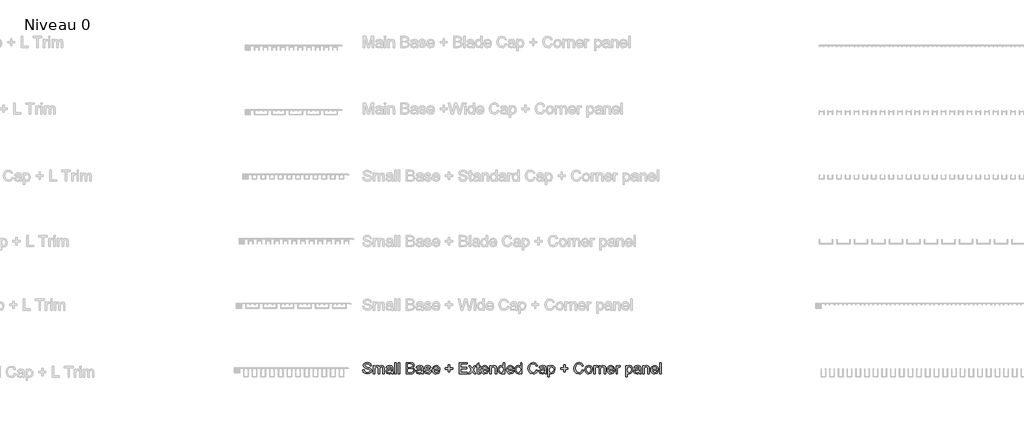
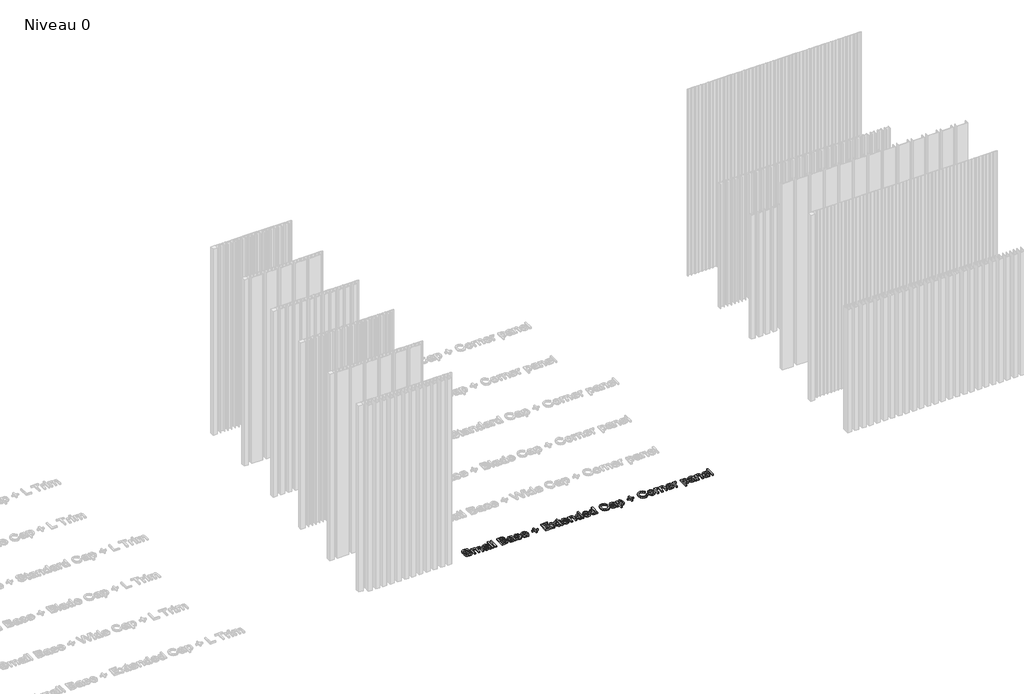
# One storey, part 14 of 25: 1 proxy.
"""IFC4 building model written with IfcOpenShell, lengths in millimetres."""

from ifc_helpers import new_model, si_unit, origin, origin_with_axes, place, context, project, spatial, polyline, outline, extrude, element, save

model = new_model("IFC4")

# Units and contexts
model_context = context("Model", 3, world=origin())
ifc_project = project(units=[si_unit("LENGTHUNIT", "METRE", prefix="MILLI")], contexts=[model_context])

# Site, building, storey
site = spatial("IfcSite", under=ifc_project)
building = spatial("IfcBuilding", under=site)
storey = spatial("IfcBuildingStorey", under=building, Name="Niveau 0", Elevation=0.0)

# Proxy
placement = place(None, origin())
element("IfcBuildingElementProxy", 1, Name="70mm Arial", ObjectType="70mm Arial", at=placement, inside=storey, context=model_context, shape_type="SweptSolid", body=[
    extrude(outline(polyline([(3882.8802856, 2105.8968822), (3891.6702128, 2105.8968822), (3894.5029041, 2097.0983712), (3901.4215382, 2091.5359954), (3911.9625836, 2089.4157688), (3921.1473708, 2091.0209606), (3927.0788548, 2095.433092), (3929.0274031, 2101.3302404), (3927.5681379, 2106.8153609), (3921.5937343, 2110.8068806), (3908.7951196, 2114.1631906), (3895.0179389, 2118.4980668), (3887.5413505, 2125.0390087), (3885.0777674, 2133.7774323), (3888.1250566, 2143.7261878), (3897.0265746, 2150.7478288), (3910.0569549, 2153.1427406), (3923.9628943, 2150.6362379), (3933.2335206, 2143.2712404), (3936.7185893, 2132.2666636), (3927.9286622, 2132.2666636), (3922.9499925, 2141.2969403), (3910.4003114, 2144.3528134), (3897.8162946, 2141.331276), (3893.8676945, 2134.0349497), (3896.6660503, 2127.9403714), (3911.0183532, 2123.030373), (3926.5724039, 2118.6182416), (3935.0790619, 2111.4935936), (3937.8173302, 2101.5534221), (3934.6670341, 2091.0381284), (3925.6024217, 2083.36411), (3912.3059401, 2080.6258417), (3896.6059629, 2083.5787078), (3886.6743753, 2092.4716419), (3882.8802856, 2105.8968822)])), origin_with_axes(), (0.0, 0.0, 1.0), 10.0),
    extrude(outline(polyline([(3949.9034801, 2081.7245826), (3949.9034801, 2133.3654045), (3958.6934072, 2133.3654045), (3958.6934072, 2124.8673304), (3964.7364821, 2131.828884), (3973.3375631, 2134.4641454), (3982.1446581, 2131.7773806), (3986.9859852, 2124.2492887), (3993.8445318, 2131.9104312), (4002.5057003, 2134.4641454), (4013.9995601, 2130.2151084), (4018.0254154, 2117.1246407), (4018.0254154, 2081.7245826), (4009.2354882, 2081.7245826), (4009.2354882, 2113.3477189), (4008.4200165, 2120.6869647), (4005.4671503, 2124.3007921), (4000.4455611, 2125.6742183), (3991.8015605, 2122.1548138), (3988.3594113, 2110.8755519), (3988.3594113, 2081.7245826), (3979.5694841, 2081.7245826), (3979.5694841, 2114.326285), (3977.5350967, 2122.8415269), (3970.8653961, 2125.6742183), (3964.3587899, 2123.7857574), (3960.0324977, 2118.2577172), (3958.6934072, 2107.7681753), (3958.6934072, 2081.7245826), (3949.9034801, 2081.7245826)])), origin_with_axes(), (0.0, 0.0, 1.0), 10.0),
    extrude(outline(polyline([(4064.1725329, 2088.3170279), (4055.648707, 2082.3597922), (4046.2321542, 2080.6258417), (4033.4678753, 2084.7976235), (4029.0128243, 2095.4588437), (4030.6952713, 2102.4118134), (4035.1159866, 2107.4591544), (4041.2706524, 2110.3433493), (4048.8759995, 2111.6652719), (4064.1210294, 2114.6868093), (4064.1725329, 2116.6439416), (4061.7518693, 2123.1333799), (4052.0348796, 2125.6742183), (4043.1419455, 2123.9831874), (4038.9014923, 2117.983032), (4030.1115652, 2119.0817729), (4033.9142387, 2127.6656861), (4041.5710893, 2132.6958593), (4053.1679561, 2134.4641454), (4063.8205924, 2132.9018732), (4069.8379156, 2128.9790249), (4072.5332643, 2123.0132052), (4072.96246, 2115.3220189), (4072.96246, 2104.3861135), (4073.4088235, 2089.1153319), (4075.1599418, 2081.7245826), (4066.3700146, 2081.7245826), (4064.1725329, 2088.3170279)]), holes=[polyline([(4064.1725329, 2105.8968822), (4049.9919082, 2103.2015335), (4042.4294807, 2101.7766039), (4039.0044993, 2099.4589473), (4037.8027514, 2096.0768855), (4040.420845, 2091.3213976), (4048.1034473, 2089.4157688), (4056.9963814, 2091.5188276), (4062.7304354, 2096.6090881), (4064.1210294, 2103.4075474), (4064.1725329, 2105.8968822)])]), origin_with_axes(), (0.0, 0.0, 1.0), 10.0),
    extrude(outline(polyline([(4085.0486098, 2081.7245826), (4085.0486098, 2152.0439997), (4093.8385369, 2152.0439997), (4093.8385369, 2081.7245826), (4085.0486098, 2081.7245826)])), origin_with_axes(), (0.0, 0.0, 1.0), 10.0),
    extrude(outline(polyline([(4107.0234276, 2081.7245826), (4107.0234276, 2152.0439997), (4115.8133548, 2152.0439997), (4115.8133548, 2081.7245826), (4107.0234276, 2081.7245826)])), origin_with_axes(), (0.0, 0.0, 1.0), 10.0),
    extrude(outline(polyline([(4157.5655087, 2081.7245826), (4157.5655087, 2152.0439997), (4184.3988214, 2152.0439997), (4197.5407926, 2149.9752766), (4205.3006501, 2143.6145969), (4208.1075897, 2134.6186558), (4205.7470136, 2126.4038509), (4198.6137817, 2120.1805138), (4207.2749502, 2113.6224041), (4210.3050715, 2102.6864987), (4208.2363484, 2093.2356102), (4203.1117522, 2086.5058222), (4195.4634856, 2082.9349143), (4184.1928075, 2081.7245826), (4157.5655087, 2081.7245826)]), holes=[polyline([(4166.3554358, 2090.5145097), (4184.3816536, 2090.5145097), (4190.9054276, 2090.8578662), (4196.4248838, 2092.7720789), (4200.0816309, 2096.6777594), (4201.5151444, 2102.6006595), (4199.8326974, 2109.4334544), (4194.3819125, 2113.5108132), (4183.5232623, 2114.6868093), (4166.3554358, 2114.6868093), (4166.3554358, 2090.5145097)]), polyline([(4166.3554358, 2123.4767365), (4182.4073536, 2123.4767365), (4191.7809868, 2124.2321208), (4197.4206178, 2127.485424), (4199.3176626, 2133.2108941), (4197.5493765, 2138.9449481), (4192.4848677, 2142.3355938), (4181.1884379, 2143.2540725), (4166.3554358, 2143.2540725), (4166.3554358, 2123.4767365)])]), origin_with_axes(), (0.0, 0.0, 1.0), 10.0),
    extrude(outline(polyline([(4254.2547072, 2088.3170279), (4245.7308814, 2082.3597922), (4236.3143286, 2080.6258417), (4223.5500496, 2084.7976235), (4219.0949987, 2095.4588437), (4220.7774457, 2102.4118134), (4225.198161, 2107.4591544), (4231.3528267, 2110.3433493), (4238.9581739, 2111.6652719), (4254.2032037, 2114.6868093), (4254.2547072, 2116.6439416), (4251.8340437, 2123.1333799), (4242.1170539, 2125.6742183), (4233.2241198, 2123.9831874), (4228.9836667, 2117.983032), (4220.1937396, 2119.0817729), (4223.9964131, 2127.6656861), (4231.6532637, 2132.6958593), (4243.2501305, 2134.4641454), (4253.9027668, 2132.9018732), (4259.9200899, 2128.9790249), (4262.6154387, 2123.0132052), (4263.0446343, 2115.3220189), (4263.0446343, 2104.3861135), (4263.4909978, 2089.1153319), (4265.2421161, 2081.7245826), (4256.452189, 2081.7245826), (4254.2547072, 2088.3170279)]), holes=[polyline([(4254.2547072, 2105.8968822), (4240.0740826, 2103.2015335), (4232.511655, 2101.7766039), (4229.0866736, 2099.4589473), (4227.8849258, 2096.0768855), (4230.5030193, 2091.3213976), (4238.1856217, 2089.4157688), (4247.0785558, 2091.5188276), (4252.8126098, 2096.6090881), (4254.2032037, 2103.4075474), (4254.2547072, 2105.8968822)])]), origin_with_axes(), (0.0, 0.0, 1.0), 10.0),
    extrude(outline(polyline([(4271.8345615, 2097.1069551), (4280.6244886, 2098.205696), (4284.6932635, 2091.6819219), (4294.0153933, 2089.4157688), (4302.9769987, 2091.4930758), (4305.8955291, 2096.3687385), (4302.9598308, 2100.3173386), (4293.9123863, 2102.8238413), (4280.6759921, 2107.1243818), (4274.8990185, 2112.145971), (4272.9333024, 2119.2362833), (4274.5127424, 2125.7858091), (4278.8218668, 2130.7902305), (4284.4099944, 2133.3911562), (4291.9724219, 2134.4641454), (4302.6679778, 2132.7387788), (4309.466437, 2128.0691301), (4312.4879745, 2120.1805138), (4303.6980474, 2119.0817729), (4300.3932408, 2123.9316839), (4292.659135, 2125.6742183), (4284.2469, 2124.0089391), (4281.7232295, 2120.1290103), (4282.7704669, 2117.5710042), (4286.0495218, 2115.6310398), (4293.6205332, 2113.7597467), (4306.5221548, 2109.6223005), (4312.5137262, 2104.9354839), (4314.6854563, 2097.2958012), (4312.1360341, 2088.8835662), (4304.7796204, 2082.7804039), (4293.8952185, 2080.6258417), (4278.5643495, 2084.7804557), (4271.8345615, 2097.1069551)])), origin_with_axes(), (0.0, 0.0, 1.0), 10.0),
    extrude(outline(polyline([(4360.7295668, 2097.1069551), (4369.3478157, 2096.0082142), (4361.2875212, 2084.6602809), (4346.2742569, 2080.6258417), (4335.9606852, 2082.3662301), (4328.0248574, 2087.5873953), (4322.9646406, 2095.9502728), (4321.2779016, 2107.1157979), (4322.9818084, 2118.6568692), (4328.0935287, 2127.2879939), (4335.9220576, 2132.6701075), (4345.77639, 2134.4641454), (4355.3238475, 2132.6743995), (4362.9528003, 2127.3051618), (4367.9550758, 2118.6912049), (4369.6225009, 2107.1673014), (4369.5709974, 2104.7981413), (4330.0678288, 2104.7981413), (4335.1237537, 2093.3815367), (4346.4459352, 2089.4157688), (4355.0641841, 2091.2527262), (4360.7295668, 2097.1069551)]), holes=[polyline([(4330.0678288, 2113.5880684), (4360.8325738, 2113.5880684), (4357.3131693, 2121.5539399), (4345.7420543, 2125.6742183), (4334.9177397, 2122.3865795), (4330.0678288, 2113.5880684)])]), origin_with_axes(), (0.0, 0.0, 1.0), 10.0),
    extrude(outline(polyline([(4423.4608046, 2092.7119915), (4423.4608046, 2111.3905867), (4404.7822095, 2111.3905867), (4404.7822095, 2120.1805138), (4423.4608046, 2120.1805138), (4423.4608046, 2138.859109), (4432.2507318, 2138.859109), (4432.2507318, 2120.1805138), (4450.9293269, 2120.1805138), (4450.9293269, 2111.3905867), (4432.2507318, 2111.3905867), (4432.2507318, 2092.7119915), (4423.4608046, 2092.7119915)])), origin_with_axes(), (0.0, 0.0, 1.0), 10.0),
    extrude(outline(polyline([(4491.5827399, 2081.7245826), (4491.5827399, 2152.0439997), (4542.124821, 2152.0439997), (4542.124821, 2143.2540725), (4500.3726671, 2143.2540725), (4500.3726671, 2122.3779956), (4539.9273392, 2122.3779956), (4539.9273392, 2113.5880684), (4500.3726671, 2113.5880684), (4500.3726671, 2090.5145097), (4543.2235619, 2090.5145097), (4543.2235619, 2081.7245826), (4491.5827399, 2081.7245826)])), origin_with_axes(), (0.0, 0.0, 1.0), 10.0),
    extrude(outline(polyline([(4549.8160072, 2081.7245826), (4568.5976094, 2107.6823362), (4550.9147481, 2133.3654045), (4561.4901292, 2133.3654045), (4570.022539, 2121.0045695), (4574.0054747, 2115.1675085), (4577.4562078, 2119.9401642), (4587.1731976, 2133.3654045), (4597.7485787, 2133.3654045), (4579.1729904, 2107.6823362), (4597.0618656, 2081.7245826), (4586.4864845, 2081.7245826), (4575.7222573, 2097.3301368), (4573.7479573, 2100.179996), (4560.3913883, 2081.7245826), (4549.8160072, 2081.7245826)])), origin_with_axes(), (0.0, 0.0, 1.0), 10.0),
    extrude(outline(polyline([(4623.431647, 2089.0552445), (4624.5303879, 2081.4670652), (4617.9551104, 2080.6258417), (4610.5901128, 2082.0851069), (4606.916198, 2085.9135322), (4605.8517927, 2095.8880394), (4605.8517927, 2124.5754774), (4599.2593474, 2124.5754774), (4599.2593474, 2133.3654045), (4605.8517927, 2133.3654045), (4605.8517927, 2145.9150856), (4614.6417199, 2151.0826014), (4614.6417199, 2133.3654045), (4623.431647, 2133.3654045), (4623.431647, 2124.5754774), (4614.6417199, 2124.5754774), (4614.6417199, 2096.1455568), (4615.1052512, 2091.6132506), (4616.607436, 2090.0080588), (4619.6032217, 2089.4157688), (4623.431647, 2089.0552445)])), origin_with_axes(), (0.0, 0.0, 1.0), 10.0),
    extrude(outline(polyline([(4668.3770166, 2097.1069551), (4676.9952655, 2096.0082142), (4668.934971, 2084.6602809), (4653.9217068, 2080.6258417), (4643.608135, 2082.3662301), (4635.6723073, 2087.5873953), (4630.6120904, 2095.9502728), (4628.9253515, 2107.1157979), (4630.6292582, 2118.6568692), (4635.7409786, 2127.2879939), (4643.5695074, 2132.6701075), (4653.4238398, 2134.4641454), (4662.9712973, 2132.6743995), (4670.6002502, 2127.3051618), (4675.6025256, 2118.6912049), (4677.2699507, 2107.1673014), (4677.2184473, 2104.7981413), (4637.7152786, 2104.7981413), (4642.7712035, 2093.3815367), (4654.093385, 2089.4157688), (4662.7116339, 2091.2527262), (4668.3770166, 2097.1069551)]), holes=[polyline([(4637.7152786, 2113.5880684), (4668.4800236, 2113.5880684), (4664.9606192, 2121.5539399), (4653.3895042, 2125.6742183), (4642.5651896, 2122.3865795), (4637.7152786, 2113.5880684)])]), origin_with_axes(), (0.0, 0.0, 1.0), 10.0),
    extrude(outline(polyline([(4686.0598779, 2081.7245826), (4686.0598779, 2133.3654045), (4694.849805, 2133.3654045), (4694.849805, 2126.1549174), (4701.5710091, 2132.3868384), (4710.7472123, 2134.4641454), (4719.0478564, 2132.7902823), (4724.7132391, 2128.3953188), (4727.3485005, 2121.9316321), (4727.8120318, 2113.433558), (4727.8120318, 2081.7245826), (4719.0221046, 2081.7245826), (4719.0221046, 2112.248978), (4718.0092029, 2120.0260034), (4714.4297111, 2124.1376978), (4708.3952201, 2125.6742183), (4698.8584925, 2122.2234851), (4694.849805, 2109.1244336), (4694.849805, 2081.7245826), (4686.0598779, 2081.7245826)])), origin_with_axes(), (0.0, 0.0, 1.0), 10.0),
    extrude(outline(polyline([(4771.7616675, 2081.7245826), (4771.7616675, 2090.0166427), (4765.9460663, 2082.9735419), (4757.9072315, 2080.6258417), (4747.0228296, 2084.0250713), (4739.3316433, 2093.5102954), (4736.6019589, 2107.4934901), (4739.1170455, 2121.4852686), (4746.6537213, 2131.1164192), (4757.8728959, 2134.4641454), (4765.97611, 2132.0692336), (4771.7616675, 2125.8458965), (4771.7616675, 2152.0439997), (4780.5515946, 2152.0439997), (4780.5515946, 2081.7245826), (4771.7616675, 2081.7245826)]), holes=[polyline([(4745.3918861, 2107.5278257), (4749.357654, 2093.9223233), (4758.7141194, 2089.4157688), (4767.9589939, 2093.7163093), (4771.7616675, 2106.8582805), (4767.8903226, 2121.1247443), (4758.353595, 2125.6742183), (4749.1001366, 2121.3050064), (4745.3918861, 2107.5278257)])]), origin_with_axes(), (0.0, 0.0, 1.0), 10.0),
    extrude(outline(polyline([(4829.8919278, 2097.1069551), (4838.5101767, 2096.0082142), (4830.4498822, 2084.6602809), (4815.4366179, 2080.6258417), (4805.1230462, 2082.3662301), (4797.1872184, 2087.5873953), (4792.1270016, 2095.9502728), (4790.4402626, 2107.1157979), (4792.1441694, 2118.6568692), (4797.2558897, 2127.2879939), (4805.0844186, 2132.6701075), (4814.938751, 2134.4641454), (4824.4862084, 2132.6743995), (4832.1151613, 2127.3051618), (4837.1174368, 2118.6912049), (4838.7848619, 2107.1673014), (4838.7333584, 2104.7981413), (4799.2301898, 2104.7981413), (4804.2861147, 2093.3815367), (4815.6082962, 2089.4157688), (4824.2265451, 2091.2527262), (4829.8919278, 2097.1069551)]), holes=[polyline([(4799.2301898, 2113.5880684), (4829.9949348, 2113.5880684), (4826.4755303, 2121.5539399), (4814.9044153, 2125.6742183), (4804.0801007, 2122.3865795), (4799.2301898, 2113.5880684)])]), origin_with_axes(), (0.0, 0.0, 1.0), 10.0),
    extrude(outline(polyline([(4879.4382749, 2081.7245826), (4879.4382749, 2090.0166427), (4873.6226737, 2082.9735419), (4865.583839, 2080.6258417), (4854.699437, 2084.0250713), (4847.0082508, 2093.5102954), (4844.2785664, 2107.4934901), (4846.7936529, 2121.4852686), (4854.3303287, 2131.1164192), (4865.5495033, 2134.4641454), (4873.6527174, 2132.0692336), (4879.4382749, 2125.8458965), (4879.4382749, 2152.0439997), (4888.228202, 2152.0439997), (4888.228202, 2081.7245826), (4879.4382749, 2081.7245826)]), holes=[polyline([(4853.0684935, 2107.5278257), (4857.0342614, 2093.9223233), (4866.3907268, 2089.4157688), (4875.6356014, 2093.7163093), (4879.4382749, 2106.8582805), (4875.56693, 2121.1247443), (4866.0302025, 2125.6742183), (4856.776744, 2121.3050064), (4853.0684935, 2107.5278257)])]), origin_with_axes(), (0.0, 0.0, 1.0), 10.0),
    extrude(outline(polyline([(4979.4236961, 2106.7209379), (4988.2136232, 2104.4547848), (4984.1577242, 2094.2120303), (4977.7927526, 2086.729004), (4969.4320211, 2082.1516323), (4959.3888426, 2080.6258417), (4941.0965236, 2085.243987), (4930.366632, 2098.6177238), (4926.6841333, 2117.4164937), (4930.8473312, 2136.5242846), (4942.6845475, 2148.9108714), (4959.5776887, 2153.1427406), (4977.1832948, 2147.6662039), (4987.1148824, 2132.2494958), (4978.3249552, 2130.155021), (4971.1144681, 2140.9621677), (4959.2343322, 2144.3528134), (4945.4829032, 2140.5930594), (4937.7144618, 2130.4983775), (4935.4740604, 2117.4336616), (4938.1264896, 2102.2916386), (4946.3842141, 2092.6175685), (4958.5132835, 2089.4157688), (4971.9642755, 2093.7763967), (4979.4236961, 2106.7209379)])), origin_with_axes(), (0.0, 0.0, 1.0), 10.0),
    extrude(outline(polyline([(5032.1632589, 2088.3170279), (5023.6394331, 2082.3597922), (5014.2228803, 2080.6258417), (5001.4586013, 2084.7976235), (4997.0035504, 2095.4588437), (4998.6859974, 2102.4118134), (5003.1067127, 2107.4591544), (5009.2613785, 2110.3433493), (5016.8667256, 2111.6652719), (5032.1117555, 2114.6868093), (5032.1632589, 2116.6439416), (5029.7425954, 2123.1333799), (5020.0256056, 2125.6742183), (5011.1326715, 2123.9831874), (5006.8922184, 2117.983032), (4998.1022913, 2119.0817729), (5001.9049648, 2127.6656861), (5009.5618154, 2132.6958593), (5021.1586822, 2134.4641454), (5031.8113185, 2132.9018732), (5037.8286417, 2128.9790249), (5040.5239904, 2123.0132052), (5040.9531861, 2115.3220189), (5040.9531861, 2104.3861135), (5041.3995496, 2089.1153319), (5043.1506679, 2081.7245826), (5034.3607407, 2081.7245826), (5032.1632589, 2088.3170279)]), holes=[polyline([(5032.1632589, 2105.8968822), (5017.9826343, 2103.2015335), (5010.4202067, 2101.7766039), (5006.9952254, 2099.4589473), (5005.7934775, 2096.0768855), (5008.4115711, 2091.3213976), (5016.0941734, 2089.4157688), (5024.9871075, 2091.5188276), (5030.7211615, 2096.6090881), (5032.1117555, 2103.4075474), (5032.1632589, 2105.8968822)])]), origin_with_axes(), (0.0, 0.0, 1.0), 10.0),
    extrude(outline(polyline([(5053.0393359, 2061.9472465), (5053.0393359, 2133.3654045), (5061.829263, 2133.3654045), (5061.829263, 2124.7471556), (5067.9066736, 2132.034898), (5076.1128946, 2134.4641454), (5087.254814, 2131.0649158), (5094.5339724, 2121.4852686), (5096.9889716, 2107.9398535), (5094.2163676, 2093.6991415), (5086.164657, 2083.9993196), (5075.0484894, 2080.6258417), (5067.4002227, 2082.8834109), (5061.829263, 2088.5917131), (5061.829263, 2061.9472465), (5053.0393359, 2061.9472465)]), holes=[polyline([(5061.829263, 2107.1329657), (5065.6319366, 2093.7420611), (5074.8596433, 2089.4157688), (5084.2761961, 2093.8965715), (5088.1990444, 2107.7853431), (5084.3706191, 2121.2105834), (5075.2201676, 2125.6742183), (5065.889454, 2120.9273143), (5061.829263, 2107.1329657)])]), origin_with_axes(), (0.0, 0.0, 1.0), 10.0),
    extrude(outline(polyline([(5151.9260162, 2092.7119915), (5151.9260162, 2111.3905867), (5133.247421, 2111.3905867), (5133.247421, 2120.1805138), (5151.9260162, 2120.1805138), (5151.9260162, 2138.859109), (5160.7159433, 2138.859109), (5160.7159433, 2120.1805138), (5179.3945385, 2120.1805138), (5179.3945385, 2111.3905867), (5160.7159433, 2111.3905867), (5160.7159433, 2092.7119915), (5151.9260162, 2092.7119915)])), origin_with_axes(), (0.0, 0.0, 1.0), 10.0),
    extrude(outline(polyline([(5269.4912917, 2106.7209379), (5278.2812188, 2104.4547848), (5274.2253198, 2094.2120303), (5267.8603481, 2086.729004), (5259.4996167, 2082.1516323), (5249.4564382, 2080.6258417), (5231.1641191, 2085.243987), (5220.4342276, 2098.6177238), (5216.7517288, 2117.4164937), (5220.9149267, 2136.5242846), (5232.7521431, 2148.9108714), (5249.6452843, 2153.1427406), (5267.2508903, 2147.6662039), (5277.1824779, 2132.2494958), (5268.3925508, 2130.155021), (5261.1820637, 2140.9621677), (5249.3019278, 2144.3528134), (5235.5504988, 2140.5930594), (5227.7820573, 2130.4983775), (5225.541656, 2117.4336616), (5228.1940852, 2102.2916386), (5236.4518097, 2092.6175685), (5248.5808791, 2089.4157688), (5262.0318711, 2093.7763967), (5269.4912917, 2106.7209379)])), origin_with_axes(), (0.0, 0.0, 1.0), 10.0),
    extrude(outline(polyline([(5287.0711459, 2107.5449935), (5288.9724827, 2119.9959597), (5294.6764931, 2128.7472592), (5310.1618725, 2134.4641454), (5319.3960171, 2132.723757), (5326.7717446, 2127.5025918), (5331.6066337, 2119.2126776), (5333.2182634, 2108.2660423), (5330.3684042, 2092.6261524), (5322.0677601, 2083.7761378), (5310.1618725, 2080.6258417), (5300.816137, 2082.3597922), (5293.4489935, 2087.5616436), (5288.6656078, 2096.025382), (5287.0711459, 2107.5449935)]), holes=[polyline([(5295.8610731, 2107.5621614), (5299.9298479, 2093.9394911), (5310.1618725, 2089.4157688), (5320.3595614, 2093.9652428), (5324.4283363, 2107.8368466), (5320.3338097, 2121.150496), (5310.1618725, 2125.6742183), (5299.9298479, 2121.1676638), (5295.8610731, 2107.5621614)])]), origin_with_axes(), (0.0, 0.0, 1.0), 10.0),
    extrude(outline(polyline([(5343.1069314, 2081.7245826), (5343.1069314, 2133.3654045), (5350.7981177, 2133.3654045), (5350.7981177, 2125.7257217), (5356.2574865, 2132.7645306), (5361.751191, 2134.4641454), (5370.5754537, 2131.7516288), (5367.6397554, 2123.8715965), (5361.4593379, 2125.6742183), (5356.4892522, 2123.9402678), (5353.3217882, 2119.1332764), (5351.8968586, 2108.8669162), (5351.8968586, 2081.7245826), (5343.1069314, 2081.7245826)])), origin_with_axes(), (0.0, 0.0, 1.0), 10.0),
    extrude(outline(polyline([(5376.0691582, 2081.7245826), (5376.0691582, 2133.3654045), (5384.8590853, 2133.3654045), (5384.8590853, 2126.1549174), (5391.5802894, 2132.3868384), (5400.7564926, 2134.4641454), (5409.0571367, 2132.7902823), (5414.7225194, 2128.3953188), (5417.3577808, 2121.9316321), (5417.8213121, 2113.433558), (5417.8213121, 2081.7245826), (5409.031385, 2081.7245826), (5409.031385, 2112.248978), (5408.0184832, 2120.0260034), (5404.4389914, 2124.1376978), (5398.4045004, 2125.6742183), (5388.8677728, 2122.2234851), (5384.8590853, 2109.1244336), (5384.8590853, 2081.7245826), (5376.0691582, 2081.7245826)])), origin_with_axes(), (0.0, 0.0, 1.0), 10.0),
    extrude(outline(polyline([(5466.0629044, 2097.1069551), (5474.6811533, 2096.0082142), (5466.6208588, 2084.6602809), (5451.6075946, 2080.6258417), (5441.2940228, 2082.3662301), (5433.358195, 2087.5873953), (5428.2979782, 2095.9502728), (5426.6112393, 2107.1157979), (5428.315146, 2118.6568692), (5433.4268664, 2127.2879939), (5441.2553952, 2132.6701075), (5451.1097276, 2134.4641454), (5460.6571851, 2132.6743995), (5468.2861379, 2127.3051618), (5473.2884134, 2118.6912049), (5474.9558385, 2107.1673014), (5474.904335, 2104.7981413), (5435.4011664, 2104.7981413), (5440.4570913, 2093.3815367), (5451.7792728, 2089.4157688), (5460.3975217, 2091.2527262), (5466.0629044, 2097.1069551)]), holes=[polyline([(5435.4011664, 2113.5880684), (5466.1659114, 2113.5880684), (5462.646507, 2121.5539399), (5451.0753919, 2125.6742183), (5440.2510774, 2122.3865795), (5435.4011664, 2113.5880684)])]), origin_with_axes(), (0.0, 0.0, 1.0), 10.0),
    extrude(outline(polyline([(5483.7457657, 2081.7245826), (5483.7457657, 2133.3654045), (5491.4369519, 2133.3654045), (5491.4369519, 2125.7257217), (5496.8963207, 2132.7645306), (5502.3900252, 2134.4641454), (5511.214288, 2131.7516288), (5508.2785896, 2123.8715965), (5502.0981721, 2125.6742183), (5497.1280864, 2123.9402678), (5493.9606224, 2119.1332764), (5492.5356928, 2108.8669162), (5492.5356928, 2081.7245826), (5483.7457657, 2081.7245826)])), origin_with_axes(), (0.0, 0.0, 1.0), 10.0),
    extrude(outline(polyline([(5544.1765147, 2061.9472465), (5544.1765147, 2133.3654045), (5552.9664419, 2133.3654045), (5552.9664419, 2124.7471556), (5559.0438524, 2132.034898), (5567.2500735, 2134.4641454), (5578.3919928, 2131.0649158), (5585.6711512, 2121.4852686), (5588.1261504, 2107.9398535), (5585.3535464, 2093.6991415), (5577.3018358, 2083.9993196), (5566.1856682, 2080.6258417), (5558.5374015, 2082.8834109), (5552.9664419, 2088.5917131), (5552.9664419, 2061.9472465), (5544.1765147, 2061.9472465)]), holes=[polyline([(5552.9664419, 2107.1329657), (5556.7691154, 2093.7420611), (5565.9968221, 2089.4157688), (5575.4133749, 2093.8965715), (5579.3362233, 2107.7853431), (5575.507798, 2121.2105834), (5566.3573465, 2125.6742183), (5557.0266328, 2120.9273143), (5552.9664419, 2107.1329657)])]), origin_with_axes(), (0.0, 0.0, 1.0), 10.0),
    extrude(outline(polyline([(5630.9770452, 2088.3170279), (5622.4532194, 2082.3597922), (5613.0366666, 2080.6258417), (5600.2723876, 2084.7976235), (5595.8173367, 2095.4588437), (5597.4997837, 2102.4118134), (5601.920499, 2107.4591544), (5608.0751647, 2110.3433493), (5615.6805119, 2111.6652719), (5630.9255417, 2114.6868093), (5630.9770452, 2116.6439416), (5628.5563817, 2123.1333799), (5618.8393919, 2125.6742183), (5609.9464578, 2123.9831874), (5605.7060047, 2117.983032), (5596.9160776, 2119.0817729), (5600.7187511, 2127.6656861), (5608.3756017, 2132.6958593), (5619.9724685, 2134.4641454), (5630.6251048, 2132.9018732), (5636.6424279, 2128.9790249), (5639.3377767, 2123.0132052), (5639.7669724, 2115.3220189), (5639.7669724, 2104.3861135), (5640.2133358, 2089.1153319), (5641.9644541, 2081.7245826), (5633.174527, 2081.7245826), (5630.9770452, 2088.3170279)]), holes=[polyline([(5630.9770452, 2105.8968822), (5616.7964206, 2103.2015335), (5609.233993, 2101.7766039), (5605.8090117, 2099.4589473), (5604.6072638, 2096.0768855), (5607.2253573, 2091.3213976), (5614.9079597, 2089.4157688), (5623.8008938, 2091.5188276), (5629.5349478, 2096.6090881), (5630.9255417, 2103.4075474), (5630.9770452, 2105.8968822)])]), origin_with_axes(), (0.0, 0.0, 1.0), 10.0),
    extrude(outline(polyline([(5651.8531222, 2081.7245826), (5651.8531222, 2133.3654045), (5660.6430493, 2133.3654045), (5660.6430493, 2126.1549174), (5667.3642534, 2132.3868384), (5676.5404566, 2134.4641454), (5684.8411007, 2132.7902823), (5690.5064834, 2128.3953188), (5693.1417448, 2121.9316321), (5693.6052761, 2113.433558), (5693.6052761, 2081.7245826), (5684.8153489, 2081.7245826), (5684.8153489, 2112.248978), (5683.8024472, 2120.0260034), (5680.2229554, 2124.1376978), (5674.1884644, 2125.6742183), (5664.6517368, 2122.2234851), (5660.6430493, 2109.1244336), (5660.6430493, 2081.7245826), (5651.8531222, 2081.7245826)])), origin_with_axes(), (0.0, 0.0, 1.0), 10.0),
    extrude(outline(polyline([(5741.8468684, 2097.1069551), (5750.4651172, 2096.0082142), (5742.4048227, 2084.6602809), (5727.3915585, 2080.6258417), (5717.0779868, 2082.3662301), (5709.142159, 2087.5873953), (5704.0819422, 2095.9502728), (5702.3952032, 2107.1157979), (5704.09911, 2118.6568692), (5709.2108303, 2127.2879939), (5717.0393592, 2132.6701075), (5726.8936915, 2134.4641454), (5736.441149, 2132.6743995), (5744.0701019, 2127.3051618), (5749.0723773, 2118.6912049), (5750.7398025, 2107.1673014), (5750.688299, 2104.7981413), (5711.1851304, 2104.7981413), (5716.2410552, 2093.3815367), (5727.5632368, 2089.4157688), (5736.1814856, 2091.2527262), (5741.8468684, 2097.1069551)]), holes=[polyline([(5711.1851304, 2113.5880684), (5741.9498753, 2113.5880684), (5738.4304709, 2121.5539399), (5726.8593559, 2125.6742183), (5716.0350413, 2122.3865795), (5711.1851304, 2113.5880684)])]), origin_with_axes(), (0.0, 0.0, 1.0), 10.0),
    extrude(outline(polyline([(5759.5297296, 2081.7245826), (5759.5297296, 2152.0439997), (5768.3196567, 2152.0439997), (5768.3196567, 2081.7245826), (5759.5297296, 2081.7245826)])), origin_with_axes(), (0.0, 0.0, 1.0), 10.0),
])

save(model, "model.ifc")
